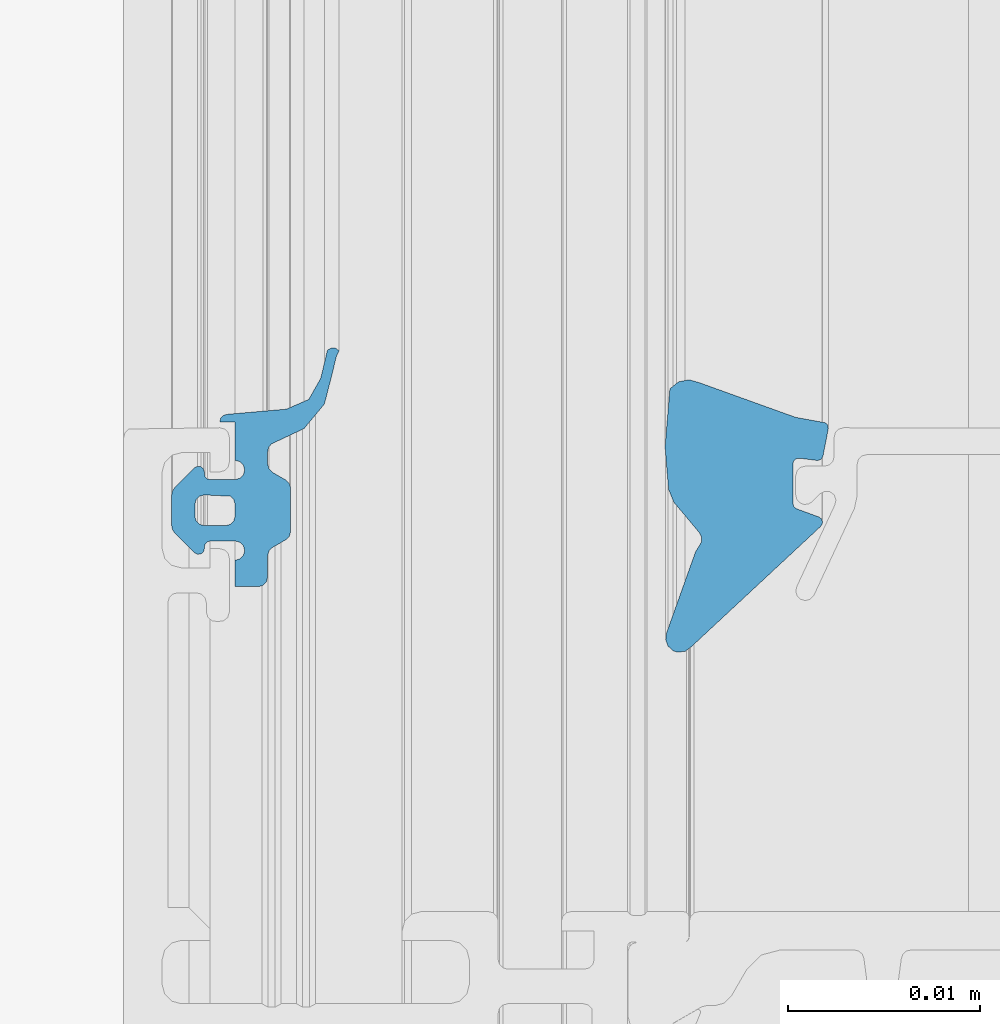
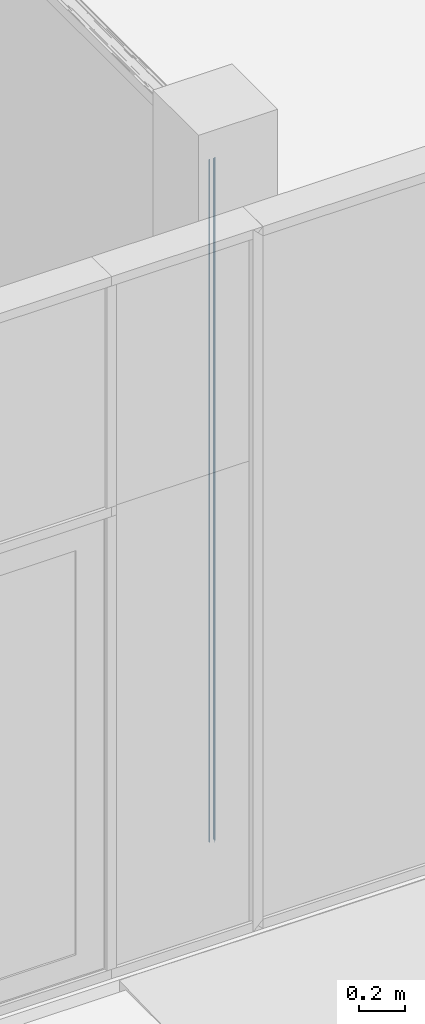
# One storey, part 22 of 69: 1 building element part, 2 elements without a shape of their own.
"""IFC2X3 building model written with IfcOpenShell, lengths in millimetres."""

from ifc_helpers import new_model, entity, si_unit, converted_unit, derived_unit, money_unit, direction, frame, origin_with_axes, place, context, subcontext, project, spatial, faceted_brep, material, type_object, element, aggregate, save


model = new_model("IFC2X3")

# Units and contexts
model_context = context("Model", 3, precision=0.01, world=origin_with_axes(), true_north=direction((0.0, 1.0)))
body_context = subcontext(model_context, "Body", "Model", "MODEL_VIEW")
ifc_project = project(units=[si_unit("LENGTHUNIT", "METRE", prefix="MILLI"), si_unit("AREAUNIT", "SQUARE_METRE"), si_unit("VOLUMEUNIT", "CUBIC_METRE"), converted_unit("PLANEANGLEUNIT", "DEGREE", entity("IfcPlaneAngleMeasure", 0.0174532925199), si_unit("PLANEANGLEUNIT", "RADIAN"), dimensions=[0, 0, 0, 0, 0, 0, 0]), si_unit("SOLIDANGLEUNIT", "STERADIAN"), money_unit("EUR"), converted_unit("TIMEUNIT", "Year", entity("IfcTimeMeasure", 31556926.0), si_unit("TIMEUNIT", "SECOND"), dimensions=[0, 0, 1, 0, 0, 0, 0]), si_unit("MASSUNIT", "GRAM", prefix="KILO"), si_unit("THERMODYNAMICTEMPERATUREUNIT", "DEGREE_CELSIUS"), si_unit("LUMINOUSINTENSITYUNIT", "LUMEN"), si_unit("ENERGYUNIT", "JOULE", prefix="MEGA"), derived_unit("THERMALCONDUCTANCEUNIT", [(si_unit("POWERUNIT", "WATT"), 1), (si_unit("LENGTHUNIT", "METRE"), -1), (si_unit("THERMODYNAMICTEMPERATUREUNIT", "KELVIN"), -1)]), derived_unit("SPECIFICHEATCAPACITYUNIT", [(si_unit("ENERGYUNIT", "JOULE"), 1), (si_unit("MASSUNIT", "GRAM", prefix="KILO"), -1), (si_unit("THERMODYNAMICTEMPERATUREUNIT", "KELVIN"), -1)]), derived_unit("MASSDENSITYUNIT", [(si_unit("MASSUNIT", "GRAM", prefix="KILO"), 1), (si_unit("VOLUMEUNIT", "CUBIC_METRE"), -1)])], contexts=[model_context])

# Site, building, storey
site_placement = place(None, origin_with_axes())
site = spatial("IfcSite", under=ifc_project, at=site_placement, Name="Puškini 31, Narva", CompositionType="ELEMENT")
building_placement = place(site_placement, origin_with_axes())
building = spatial("IfcBuilding", under=site, at=building_placement, Name="Narva Riigigümnaasium", CompositionType="ELEMENT")
storey_placement = place(building_placement, origin_with_axes())
storey = spatial("IfcBuildingStorey", under=building, at=storey_placement, Name="1.korrus 0.00", CompositionType="ELEMENT", Elevation=0.0)

# Curtain wall, member, building element part
curtain_wall_type = type_object("IfcCurtainWallType", Name="Curtain Wall Type", PredefinedType="NOTDEFINED")
curtain_wall_placement = place(storey_placement, frame((22285.3673645, 151537.502931, -7.26812883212e-05), z_axis=(0.0, 0.0, 1.0), x_axis=(1.0, 0.0, 0.0)))
curtain_wall = element("IfcCurtainWall", 1, at=curtain_wall_placement, inside=storey, type_object=curtain_wall_type, Name="G-KLF-01-2")
member_type = type_object("IfcMemberType", Name="61 x 45", PredefinedType="MULLION")
member_placement = place(curtain_wall_placement, frame((0.0, -1037.50292152, 1.740620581e-05), z_axis=(0.0, 0.0, 1.0), x_axis=(0.0, -1.0, 0.0)))
member = element("IfcMember", 2, at=member_placement, type_object=member_type, Name="G-SKLF-02-raam", ObjectType="MULLION")
aggregate(curtain_wall, [member])
ifc_material = material(Name="Membraan - Veekindel")
building_element_part_placement = place(member_placement, origin_with_axes())
building_element_part = element("IfcBuildingElementPart", 3, at=building_element_part_placement, material=ifc_material, Name="Membraan - Veekindel", context=body_context, shape_type="Brep", body=[
    faceted_brep([(-59.5800222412, -34.73794757, 59.5800222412), (-59.5800222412, -34.73794757, 3700.42004229), (-61.0413385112, -34.3890442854, 3698.95872602), (-61.0413385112, -34.3890442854, 61.0413385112), (-58.4755028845, -35.3628499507, 58.4755028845), (-58.4755028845, -35.3628499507, 3701.52456165), (-57.9693613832, -36.5265882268, 3702.03070315), (-57.7000324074, -39.5999584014, 3702.30003213), (-57.6464370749, -39.7999717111, 3702.35362746), (-57.5000161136, -39.9463912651, 3702.50004842), (-57.3000022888, -39.9999846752, 3702.70006225), (-57.3000022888, -39.1999494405, 3702.70006225), (-55.3000210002, -39.1999606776, 3704.70004354), (-55.2330337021, -38.9499606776, 3704.76703083), (-55.0500210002, -38.7669479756, 3704.95004354), (-54.8000210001, -38.6999606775, 3705.20004354), (-54.550021, -38.7669479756, 3705.45004354), (-54.3670082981, -38.9499606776, 3705.63305624), (-54.300021, -39.1999606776, 3705.70004354), (-54.300021, -40.4999366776, 3705.70004354), (-54.3402133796, -40.6499366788, 3705.65985116), (-54.4500210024, -40.7597443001, 3705.55004353), (-54.6000210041, -40.7999366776, 3705.40004353), (-54.7000173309, -40.7999366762, 3705.3000472), (-54.866675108, -40.850483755, 3705.13338943), (-54.9771753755, -40.9850924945, 3705.02288916), (-54.9942836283, -41.1584047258, 3705.00578091), (-54.9122350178, -41.3120206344, 3705.08782952), (-53.8716106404, -42.3533776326, 3706.12845389), (-53.7093558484, -42.4618547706, 3706.29070869), (-53.517932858, -42.4999486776, 3706.48213168), (-51.8818844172, -42.4999486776, 3708.11818012), (-51.6904310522, -42.4618421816, 3708.30963348), (-51.5281601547, -42.3533311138, 3708.47190438), (-50.4878083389, -41.3119729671, 3709.5122562), (-50.4057850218, -41.1583618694, 3709.59427951), (-50.4229059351, -40.9850671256, 3709.5771586), (-50.5334025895, -40.8504763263, 3709.46666195), (-50.7000457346, -40.7999366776, 3709.3000188), (-50.80004, -40.7999366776, 3709.20002454), (-50.95004, -40.7597442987, 3709.05002454), (-51.0598476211, -40.6499366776, 3708.94021691), (-51.10004, -40.4999366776, 3708.90002454), (-51.10004, -39.1999550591, 3708.90002454), (-51.0330541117, -38.9499546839, 3708.96701042), (-50.8500424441, -38.7669409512, 3709.15002209), (-50.6000428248, -38.699952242, 3709.40002171), (-50.3500424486, -38.7669381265, 3709.65002209), (-50.1670287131, -38.9499497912, 3709.83303582), (-50.10004, -39.1999494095, 3709.90002454), (-48.7206527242, -39.1999494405, 3711.27941181), (-48.7206527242, -38.0023809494, 3711.27941181), (-48.7876400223, -37.7523809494, 3711.21242451), (-48.9706527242, -37.5693682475, 3711.02941181), (-49.2206527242, -37.5023809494, 3710.77941181), (-50.3319753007, -37.5023809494, 3709.66808923), (-50.5819753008, -37.4353936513, 3709.41808923), (-50.7649880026, -37.2523809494, 3709.23507653), (-51.1691331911, -36.5523809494, 3708.83093134), (-51.352145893, -36.3693682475, 3708.64791864), (-51.602145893, -36.3023809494, 3708.39791864), (-53.8391557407, -36.3023809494, 3706.16090879), (-54.0891557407, -36.3693682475, 3705.91090879), (-54.2721684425, -36.5523809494, 3705.72789609), (-54.676313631, -37.2523809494, 3705.3237509), (-54.8593263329, -37.4353936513, 3705.1407382), (-55.1093263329, -37.5023809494, 3704.8907382), (-55.7607444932, -37.5023809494, 3704.23932004), (-55.9795989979, -37.4519392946, 3704.02046554), (-56.1542959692, -37.3107917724, 3703.84576857), (-56.2495873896, -37.1074172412, 3703.75047715), (-56.9567944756, -35.6067920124, 3703.04327006), (-58.2346494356, -34.5489145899, 3701.7654151), (-59.8409257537, -34.1343131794, 3700.15913878), (-60.7381535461, -33.9217644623, 3699.26191099), (-61.0108941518, -33.784859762, 3698.98917038), (-61.1423164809, -33.9681748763, 3698.85774805), (-61.1536677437, -34.1934467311, 3698.84639679), (-53.5000340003, -40.7999553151, 3706.50003053), (-53.433048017, -39.44993177, 3706.56701652), (-53.2500389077, -39.2669226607, 3706.75002563), (-53.0000438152, -39.1999366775, 3707.00002072), (-52.4000171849, -39.1999366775, 3707.60004735), (-52.1500220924, -39.2669226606, 3707.85004244), (-51.9670129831, -39.4499317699, 3708.03305155), (-51.9000269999, -39.6999268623, 3708.10003754), (-51.9000269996, -40.799955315, 3708.10003754), (-51.9670118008, -41.0499459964, 3708.03305273), (-52.150017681, -41.2329518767, 3707.85004685), (-52.4000083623, -41.299936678, 3707.60005617), (-53.0000526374, -41.299936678, 3707.0000119), (-53.2500433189, -41.2329518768, 3706.75002122), (-53.4330491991, -41.0499459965, 3706.56701534), (-61.1536677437, -34.1934467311, 61.1536677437), (-61.1423164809, -33.9681748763, 61.1423164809), (-61.0108941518, -33.784859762, 61.0108941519), (-60.7381535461, -33.9217644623, 60.7381535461), (-59.8409257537, -34.1343131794, 59.8409257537), (-58.2346494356, -34.5489145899, 58.2346494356), (-56.9567944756, -35.6067920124, 56.9567944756), (-56.2495873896, -37.1074172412, 56.2495873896), (-56.1542959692, -37.3107917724, 56.1542959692), (-55.9795989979, -37.4519392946, 55.9795989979), (-55.7607444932, -37.5023809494, 55.7607444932), (-55.1093263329, -37.5023809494, 55.1093263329), (-54.8593263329, -37.4353936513, 54.8593263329), (-54.676313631, -37.2523809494, 54.676313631), (-54.2721684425, -36.5523809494, 54.2721684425), (-54.0891557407, -36.3693682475, 54.0891557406), (-53.8391557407, -36.3023809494, 53.8391557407), (-51.602145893, -36.3023809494, 51.602145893), (-51.352145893, -36.3693682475, 51.352145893), (-51.1691331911, -36.5523809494, 51.1691331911), (-50.7649880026, -37.2523809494, 50.7649880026), (-50.5819753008, -37.4353936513, 50.5819753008), (-50.3319753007, -37.5023809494, 50.3319753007), (-49.2206527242, -37.5023809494, 49.2206527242), (-48.9706527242, -37.5693682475, 48.9706527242), (-48.7876400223, -37.7523809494, 48.7876400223), (-48.7206527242, -38.0023809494, 48.7206527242), (-48.7206527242, -39.1999494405, 48.7206527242), (-50.10004, -39.1999494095, 50.10004), (-50.1670287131, -38.9499497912, 50.1670287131), (-50.3500424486, -38.7669381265, 50.3500424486), (-50.6000428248, -38.699952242, 50.6000428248), (-50.8500424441, -38.7669409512, 50.8500424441), (-51.0330541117, -38.9499546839, 51.0330541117), (-51.10004, -39.1999550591, 51.10004), (-51.10004, -40.4999366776, 51.10004), (-51.0598476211, -40.6499366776, 51.0598476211), (-50.95004, -40.7597442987, 50.95004), (-50.80004, -40.7999366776, 50.80004), (-50.7000457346, -40.7999366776, 50.7000457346), (-50.5334025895, -40.8504763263, 50.5334025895), (-50.4229059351, -40.9850671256, 50.4229059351), (-50.4057850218, -41.1583618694, 50.4057850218), (-50.4878083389, -41.3119729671, 50.4878083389), (-51.5281601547, -42.3533311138, 51.5281601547), (-51.6904310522, -42.4618421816, 51.6904310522), (-51.8818844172, -42.4999486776, 51.8818844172), (-53.517932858, -42.4999486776, 53.517932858), (-53.7093558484, -42.4618547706, 53.7093558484), (-53.8716106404, -42.3533776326, 53.8716106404), (-54.9122350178, -41.3120206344, 54.9122350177), (-54.9942836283, -41.1584047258, 54.9942836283), (-54.9771753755, -40.9850924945, 54.9771753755), (-54.866675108, -40.850483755, 54.866675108), (-54.7000173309, -40.7999366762, 54.7000173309), (-54.6000210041, -40.7999366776, 54.6000210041), (-54.4500210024, -40.7597443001, 54.4500210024), (-54.3402133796, -40.6499366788, 54.3402133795), (-54.300021, -40.4999366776, 54.300021), (-54.300021, -39.1999606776, 54.300021), (-54.3670082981, -38.9499606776, 54.3670082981), (-54.550021, -38.7669479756, 54.5500210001), (-54.8000210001, -38.6999606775, 54.8000210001), (-55.0500210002, -38.7669479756, 55.0500210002), (-55.2330337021, -38.9499606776, 55.2330337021), (-55.3000210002, -39.1999606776, 55.3000210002), (-57.3000022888, -39.1999494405, 57.3000022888), (-57.3000022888, -39.9999846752, 57.3000022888), (-57.5000161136, -39.9463912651, 57.5000161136), (-57.6464370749, -39.7999717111, 57.6464370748), (-57.7000324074, -39.5999584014, 57.7000324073), (-57.9693613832, -36.5265882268, 57.9693613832), (-53.5000340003, -40.7999553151, 53.5000340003), (-53.4330491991, -41.0499459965, 53.4330491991), (-53.2500433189, -41.2329518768, 53.2500433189), (-53.0000526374, -41.299936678, 53.0000526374), (-52.4000083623, -41.299936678, 52.4000083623), (-52.150017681, -41.2329518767, 52.150017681), (-51.9670118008, -41.0499459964, 51.9670118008), (-51.9000269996, -40.799955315, 51.9000269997), (-51.9000269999, -39.6999268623, 51.9000269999), (-51.9670129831, -39.4499317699, 51.9670129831), (-52.1500220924, -39.2669226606, 52.1500220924), (-52.4000171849, -39.1999366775, 52.4000171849), (-53.0000438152, -39.1999366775, 53.0000438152), (-53.2500389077, -39.2669226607, 53.2500389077), (-53.433048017, -39.44993177, 53.433048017)], [[[0, 1, 2, 3]], [[4, 5, 1, 0]], [[2, 1, 5, 6, 7, 8, 9, 10, 11, 12, 13, 14, 15, 16, 17, 18, 19, 20, 21, 22, 23, 24, 25, 26, 27, 28, 29, 30, 31, 32, 33, 34, 35, 36, 37, 38, 39, 40, 41, 42, 43, 44, 45, 46, 47, 48, 49, 50, 51, 52, 53, 54, 55, 56, 57, 58, 59, 60, 61, 62, 63, 64, 65, 66, 67, 68, 69, 70, 71, 72, 73, 74, 75, 76, 77], [78, 79, 80, 81, 82, 83, 84, 85, 86, 87, 88, 89, 90, 91, 92]], [[3, 2, 77, 93]], [[3, 93, 94, 95, 96, 97, 98, 99, 100, 101, 102, 103, 104, 105, 106, 107, 108, 109, 110, 111, 112, 113, 114, 115, 116, 117, 118, 119, 120, 121, 122, 123, 124, 125, 126, 127, 128, 129, 130, 131, 132, 133, 134, 135, 136, 137, 138, 139, 140, 141, 142, 143, 144, 145, 146, 147, 148, 149, 150, 151, 152, 153, 154, 155, 156, 157, 158, 159, 160, 161, 162, 163, 164, 4, 0], [165, 166, 167, 168, 169, 170, 171, 172, 173, 174, 175, 176, 177, 178, 179]], [[164, 6, 5, 4]], [[163, 7, 6, 164]], [[162, 8, 7, 163]], [[161, 9, 8, 162]], [[160, 10, 9, 161]], [[159, 11, 10, 160]], [[158, 12, 11, 159]], [[157, 13, 12, 158]], [[156, 14, 13, 157]], [[155, 15, 14, 156]], [[154, 16, 15, 155]], [[153, 17, 16, 154]], [[152, 18, 17, 153]], [[151, 19, 18, 152]], [[150, 20, 19, 151]], [[149, 21, 20, 150]], [[148, 22, 21, 149]], [[147, 23, 22, 148]], [[146, 24, 23, 147]], [[145, 25, 24, 146]], [[144, 26, 25, 145]], [[143, 27, 26, 144]], [[142, 28, 27, 143]], [[141, 29, 28, 142]], [[140, 30, 29, 141]], [[139, 31, 30, 140]], [[138, 32, 31, 139]], [[137, 33, 32, 138]], [[136, 34, 33, 137]], [[135, 35, 34, 136]], [[134, 36, 35, 135]], [[133, 37, 36, 134]], [[132, 38, 37, 133]], [[131, 39, 38, 132]], [[130, 40, 39, 131]], [[129, 41, 40, 130]], [[128, 42, 41, 129]], [[127, 43, 42, 128]], [[126, 44, 43, 127]], [[125, 45, 44, 126]], [[124, 46, 45, 125]], [[123, 47, 46, 124]], [[122, 48, 47, 123]], [[121, 49, 48, 122]], [[120, 50, 49, 121]], [[119, 51, 50, 120]], [[118, 52, 51, 119]], [[117, 53, 52, 118]], [[116, 54, 53, 117]], [[115, 55, 54, 116]], [[114, 56, 55, 115]], [[113, 57, 56, 114]], [[112, 58, 57, 113]], [[111, 59, 58, 112]], [[110, 60, 59, 111]], [[109, 61, 60, 110]], [[108, 62, 61, 109]], [[107, 63, 62, 108]], [[106, 64, 63, 107]], [[105, 65, 64, 106]], [[104, 66, 65, 105]], [[103, 67, 66, 104]], [[102, 68, 67, 103]], [[101, 69, 68, 102]], [[100, 70, 69, 101]], [[99, 71, 70, 100]], [[98, 72, 71, 99]], [[97, 73, 72, 98]], [[96, 74, 73, 97]], [[95, 75, 74, 96]], [[94, 76, 75, 95]], [[93, 77, 76, 94]], [[179, 79, 78, 165]], [[178, 80, 79, 179]], [[177, 81, 80, 178]], [[176, 82, 81, 177]], [[175, 83, 82, 176]], [[174, 84, 83, 175]], [[173, 85, 84, 174]], [[172, 86, 85, 173]], [[171, 87, 86, 172]], [[170, 88, 87, 171]], [[169, 89, 88, 170]], [[168, 90, 89, 169]], [[167, 91, 90, 168]], [[166, 92, 91, 167]], [[165, 78, 92, 166]]]),
    faceted_brep([(-55.9926715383, -16.8063498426, 55.9926715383), (-55.9926715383, -16.8063498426, 3704.007393), (-59.0307115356, -16.554149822, 3700.969353), (-59.0307115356, -16.554149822, 59.0307115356), (-53.7899070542, -16.6230039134, 53.7899070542), (-53.7899070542, -16.6230039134, 3706.21015748), (-53.1225200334, -16.3483062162, 3706.8775445), (-51.5205025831, -15.0099586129, 3708.47956195), (-51.3011765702, -14.8998814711, 3708.69888797), (-51.0558924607, -14.9074036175, 3708.94417207), (-50.8437237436, -15.0307134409, 3709.15634079), (-50.5536994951, -15.2121179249, 3709.44636504), (-46.298307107, -16.7340705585, 3713.70175743), (-45.950966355, -16.7718696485, 3714.04909818), (-45.6241929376, -16.6482027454, 3714.3758716), (-45.3889077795, -16.3899097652, 3714.61115676), (-45.3195226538, -16.2152275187, 3714.68054188), (-45.3418968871, -15.7688623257, 3714.65816765), (-45.6142070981, -15.4144760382, 3714.38585744), (-51.8169217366, -8.74599822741, 3708.1831428), (-51.938943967, -8.6326446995, 3708.06112057), (-52.1026310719, -8.60190419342, 3707.89743346), (-52.2574645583, -8.66326410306, 3707.74259998), (-52.3556584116, -8.79778701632, 3707.64440612), (-52.7761212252, -9.95299910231, 3707.22394331), (-52.8859560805, -10.0961386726, 3707.11410845), (-53.0580290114, -10.1503930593, 3706.94203552), (-55.1123574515, -10.1503930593, 3704.88770708), (-55.2731258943, -10.1036784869, 3704.72693864), (-55.3838261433, -9.9780831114, 3704.61623839), (-55.4099827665, -9.81272116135, 3704.59008177), (-55.2940485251, -8.85237785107, 3704.70601601), (-55.3307332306, -8.72753828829, 3704.6693313), (-55.4168250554, -8.62997353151, 3704.58323948), (-55.5361285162, -8.57803733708, 3704.46393602), (-56.9361285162, -8.30590490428, 3703.06393602), (-57.0661058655, -8.3093438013, 3702.93395867), (-57.1824204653, -8.36745448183, 3702.81764407), (-57.2632233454, -8.46932121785, 3702.73684119), (-57.5418652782, -10.0035930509, 3702.45819926), (-59.3405112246, -15.0012955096, 3700.65955331), (-59.5001582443, -15.5494067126, 3700.49990629), (-59.3884652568, -16.1092618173, 3700.61159928), (-59.3884652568, -16.1092618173, 59.3884652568), (-59.5001582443, -15.5494067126, 59.5001582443), (-59.3405112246, -15.0012955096, 59.3405112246), (-57.5418652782, -10.0035930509, 57.5418652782), (-57.2632233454, -8.46932121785, 57.2632233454), (-57.1824204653, -8.36745448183, 57.1824204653), (-57.0661058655, -8.3093438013, 57.0661058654), (-56.9361285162, -8.30590490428, 56.9361285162), (-55.5361285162, -8.57803733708, 55.5361285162), (-55.4168250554, -8.62997353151, 55.4168250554), (-55.3307332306, -8.72753828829, 55.3307332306), (-55.2940485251, -8.85237785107, 55.2940485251), (-55.4099827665, -9.81272116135, 55.4099827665), (-55.3838261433, -9.9780831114, 55.3838261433), (-55.2731258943, -10.1036784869, 55.2731258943), (-55.1123574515, -10.1503930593, 55.1123574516), (-53.0580290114, -10.1503930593, 53.0580290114), (-52.8859560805, -10.0961386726, 52.8859560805), (-52.7761212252, -9.95299910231, 52.7761212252), (-52.3556584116, -8.79778701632, 52.3556584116), (-52.2574645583, -8.66326410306, 52.2574645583), (-52.1026310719, -8.60190419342, 52.1026310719), (-51.938943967, -8.6326446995, 51.938943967), (-51.8169217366, -8.74599822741, 51.8169217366), (-45.6142070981, -15.4144760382, 45.6142070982), (-45.3418968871, -15.7688623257, 45.3418968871), (-45.3195226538, -16.2152275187, 45.3195226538), (-45.3889077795, -16.3899097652, 45.3889077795), (-45.6241929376, -16.6482027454, 45.6241929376), (-45.950966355, -16.7718696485, 45.950966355), (-46.298307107, -16.7340705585, 46.298307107), (-50.5536994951, -15.2121179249, 50.5536994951), (-50.8437237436, -15.0307134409, 50.8437237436), (-51.0558924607, -14.9074036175, 51.0558924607), (-51.3011765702, -14.8998814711, 51.3011765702), (-51.5205025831, -15.0099586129, 51.5205025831), (-53.1225200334, -16.3483062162, 53.1225200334)], [[[0, 1, 2, 3]], [[4, 5, 1, 0]], [[2, 1, 5, 6, 7, 8, 9, 10, 11, 12, 13, 14, 15, 16, 17, 18, 19, 20, 21, 22, 23, 24, 25, 26, 27, 28, 29, 30, 31, 32, 33, 34, 35, 36, 37, 38, 39, 40, 41, 42]], [[3, 2, 42, 43]], [[3, 43, 44, 45, 46, 47, 48, 49, 50, 51, 52, 53, 54, 55, 56, 57, 58, 59, 60, 61, 62, 63, 64, 65, 66, 67, 68, 69, 70, 71, 72, 73, 74, 75, 76, 77, 78, 79, 4, 0]], [[79, 6, 5, 4]], [[78, 7, 6, 79]], [[77, 8, 7, 78]], [[76, 9, 8, 77]], [[75, 10, 9, 76]], [[74, 11, 10, 75]], [[73, 12, 11, 74]], [[72, 13, 12, 73]], [[71, 14, 13, 72]], [[70, 15, 14, 71]], [[69, 16, 15, 70]], [[68, 17, 16, 69]], [[67, 18, 17, 68]], [[66, 19, 18, 67]], [[65, 20, 19, 66]], [[64, 21, 20, 65]], [[63, 22, 21, 64]], [[62, 23, 22, 63]], [[61, 24, 23, 62]], [[60, 25, 24, 61]], [[59, 26, 25, 60]], [[58, 27, 26, 59]], [[57, 28, 27, 58]], [[56, 29, 28, 57]], [[55, 30, 29, 56]], [[54, 31, 30, 55]], [[53, 32, 31, 54]], [[52, 33, 32, 53]], [[51, 34, 33, 52]], [[50, 35, 34, 51]], [[49, 36, 35, 50]], [[48, 37, 36, 49]], [[47, 38, 37, 48]], [[46, 39, 38, 47]], [[45, 40, 39, 46]], [[44, 41, 40, 45]], [[43, 42, 41, 44]]]),
])
aggregate(member, [building_element_part])

save(model, "model.ifc")
